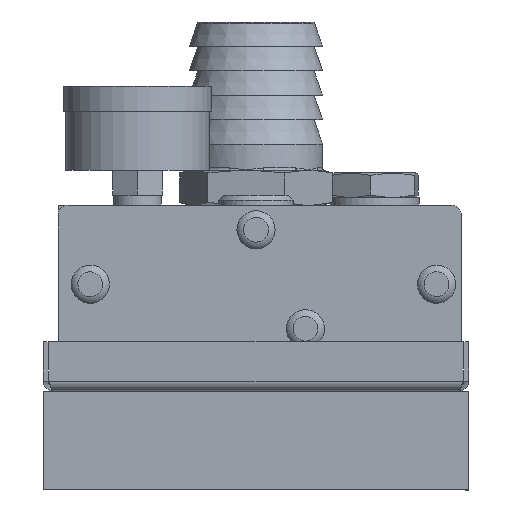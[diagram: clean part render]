
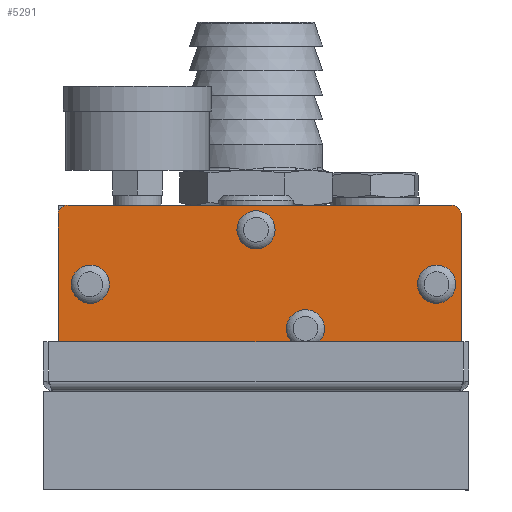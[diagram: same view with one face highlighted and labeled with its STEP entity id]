
A CAD part, front view. The second image highlights one B-rep face of the part: STEP entity #5291.
In plain terms, the highlighted planar face has unit normal (0, -1, 0).
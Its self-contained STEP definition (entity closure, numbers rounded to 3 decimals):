
#141 = CARTESIAN_POINT ( 'NONE',  ( 2.856, -278.65, 91.359 ) ) ;
#231 = EDGE_CURVE ( 'NONE', #6272, #6272, #9369, .T. ) ;
#254 = DIRECTION ( 'NONE',  ( 0., 0., -1. ) ) ;
#256 = EDGE_CURVE ( 'NONE', #4608, #2232, #9262, .T. ) ;
#259 = EDGE_CURVE ( 'NONE', #5994, #5994, #9313, .T. ) ;
#271 = EDGE_CURVE ( 'NONE', #7700, #4857, #9211, .T. ) ;
#329 = EDGE_CURVE ( 'NONE', #2232, #2457, #9144, .T. ) ;
#405 = EDGE_CURVE ( 'NONE', #2181, #6807, #8733, .T. ) ;
#554 = ORIENTED_EDGE ( 'NONE', *, *, #8478, .F. ) ;
#613 = CARTESIAN_POINT ( 'NONE',  ( -35.144, -278.65, 98.216 ) ) ;
#691 = DIRECTION ( 'NONE',  ( 0., 1., 0. ) ) ;
#706 = DIRECTION ( 'NONE',  ( -1., 0., 0. ) ) ;
#905 = CARTESIAN_POINT ( 'NONE',  ( 44.356, -278.65, 98.216 ) ) ;
#942 = CARTESIAN_POINT ( 'NONE',  ( 42.356, -278.65, 70.216 ) ) ;
#1057 = AXIS2_PLACEMENT_3D ( 'NONE', #7506, #7531, #4406 ) ;
#1059 = AXIS2_PLACEMENT_3D ( 'NONE', #7998, #7988, #7990 ) ;
#1097 = ORIENTED_EDGE ( 'NONE', *, *, #8384, .F. ) ;
#1454 = AXIS2_PLACEMENT_3D ( 'NONE', #9088, #9105, #9125 ) ;
#1552 = AXIS2_PLACEMENT_3D ( 'NONE', #8736, #8779, #8661 ) ;
#1574 = CIRCLE ( 'NONE', #2279, 2. ) ;
#1620 = AXIS2_PLACEMENT_3D ( 'NONE', #5805, #5595, #3160 ) ;
#1819 = ORIENTED_EDGE ( 'NONE', *, *, #7882, .F. ) ;
#1972 = AXIS2_PLACEMENT_3D ( 'NONE', #2653, #2659, #2670 ) ;
#2166 = CARTESIAN_POINT ( 'NONE',  ( -37.144, -278.65, 72.216 ) ) ;
#2175 = CARTESIAN_POINT ( 'NONE',  ( -30.644, -278.65, 80.359 ) ) ;
#2181 = VERTEX_POINT ( 'NONE', #2166 ) ;
#2232 = VERTEX_POINT ( 'NONE', #6602 ) ;
#2242 = DIRECTION ( 'NONE',  ( 0., 0., -1. ) ) ;
#2279 = AXIS2_PLACEMENT_3D ( 'NONE', #613, #691, #706 ) ;
#2454 = DIRECTION ( 'NONE',  ( 0., -1., 0. ) ) ;
#2457 = VERTEX_POINT ( 'NONE', #905 ) ;
#2499 = CARTESIAN_POINT ( 'NONE',  ( -30.644, -278.65, 84.216 ) ) ;
#2653 = CARTESIAN_POINT ( 'NONE',  ( 2.856, -278.65, 95.216 ) ) ;
#2659 = DIRECTION ( 'NONE',  ( 0., -1., 0. ) ) ;
#2670 = DIRECTION ( 'NONE',  ( 0., 0., -1. ) ) ;
#2763 = ORIENTED_EDGE ( 'NONE', *, *, #8960, .F. ) ;
#2909 = CIRCLE ( 'NONE', #1620, 2. ) ;
#3029 = EDGE_LOOP ( 'NONE', ( #7032 ) ) ;
#3155 = ORIENTED_EDGE ( 'NONE', *, *, #8291, .F. ) ;
#3160 = DIRECTION ( 'NONE',  ( -1., 0., 0. ) ) ;
#3388 = CARTESIAN_POINT ( 'NONE',  ( 44.356, -278.65, 72.216 ) ) ;
#3940 = EDGE_LOOP ( 'NONE', ( #4719 ) ) ;
#3994 = CARTESIAN_POINT ( 'NONE',  ( 44.356, -278.65, 72.216 ) ) ;
#4032 = VERTEX_POINT ( 'NONE', #8211 ) ;
#4406 = DIRECTION ( 'NONE',  ( 1., 0., 0. ) ) ;
#4529 = CARTESIAN_POINT ( 'NONE',  ( -35.144, -278.65, 100.216 ) ) ;
#4608 = VERTEX_POINT ( 'NONE', #4529 ) ;
#4719 = ORIENTED_EDGE ( 'NONE', *, *, #259, .F. ) ;
#4857 = VERTEX_POINT ( 'NONE', #942 ) ;
#4932 = CARTESIAN_POINT ( 'NONE',  ( 12.856, -278.65, 71.359 ) ) ;
#5033 = ORIENTED_EDGE ( 'NONE', *, *, #329, .F. ) ;
#5089 = FACE_OUTER_BOUND ( 'NONE', #9251, .T. ) ;
#5196 = ORIENTED_EDGE ( 'NONE', *, *, #231, .F. ) ;
#5290 = ORIENTED_EDGE ( 'NONE', *, *, #405, .F. ) ;
#5291 = ADVANCED_FACE ( 'NONE', ( #5931, #5905, #5943, #5967, #5089 ), #6832, .T. ) ;
#5346 = CARTESIAN_POINT ( 'NONE',  ( 39.356, -278.65, 80.359 ) ) ;
#5526 = VERTEX_POINT ( 'NONE', #141 ) ;
#5595 = DIRECTION ( 'NONE',  ( 0., 1., 0. ) ) ;
#5805 = CARTESIAN_POINT ( 'NONE',  ( -35.144, -278.65, 72.216 ) ) ;
#5823 = DIRECTION ( 'NONE',  ( 0., 0., 1. ) ) ;
#5831 = VECTOR ( 'NONE', #9069, 1000. ) ;
#5877 = CARTESIAN_POINT ( 'NONE',  ( -37.144, -278.65, 72.216 ) ) ;
#5905 = FACE_BOUND ( 'NONE', #3029, .T. ) ;
#5931 = FACE_BOUND ( 'NONE', #3940, .T. ) ;
#5943 = FACE_BOUND ( 'NONE', #8891, .T. ) ;
#5967 = FACE_BOUND ( 'NONE', #9241, .T. ) ;
#5994 = VERTEX_POINT ( 'NONE', #4932 ) ;
#6173 = AXIS2_PLACEMENT_3D ( 'NONE', #6596, #6881, #6566 ) ;
#6272 = VERTEX_POINT ( 'NONE', #5346 ) ;
#6566 = DIRECTION ( 'NONE',  ( -1., 0., 0. ) ) ;
#6596 = CARTESIAN_POINT ( 'NONE',  ( -35.144, -278.65, 72.216 ) ) ;
#6602 = CARTESIAN_POINT ( 'NONE',  ( 42.356, -278.65, 100.216 ) ) ;
#6807 = VERTEX_POINT ( 'NONE', #7086 ) ;
#6832 = PLANE ( 'NONE',  #6173 ) ;
#6881 = DIRECTION ( 'NONE',  ( 0., -1., 0. ) ) ;
#6942 = ORIENTED_EDGE ( 'NONE', *, *, #271, .F. ) ;
#7032 = ORIENTED_EDGE ( 'NONE', *, *, #8856, .F. ) ;
#7086 = CARTESIAN_POINT ( 'NONE',  ( -37.144, -278.65, 98.216 ) ) ;
#7271 = CIRCLE ( 'NONE', #8723, 3.857 ) ;
#7272 = LINE ( 'NONE', #3994, #7295 ) ;
#7295 = VECTOR ( 'NONE', #254, 1000. ) ;
#7337 = VERTEX_POINT ( 'NONE', #2175 ) ;
#7506 = CARTESIAN_POINT ( 'NONE',  ( 42.356, -278.65, 98.216 ) ) ;
#7531 = DIRECTION ( 'NONE',  ( 0., 1., 0. ) ) ;
#7700 = VERTEX_POINT ( 'NONE', #3388 ) ;
#7882 = EDGE_CURVE ( 'NONE', #2457, #7700, #7272, .T. ) ;
#7988 = DIRECTION ( 'NONE',  ( 0., 1., 0. ) ) ;
#7990 = DIRECTION ( 'NONE',  ( 1., 0., 0. ) ) ;
#7998 = CARTESIAN_POINT ( 'NONE',  ( 42.356, -278.65, 72.216 ) ) ;
#8211 = CARTESIAN_POINT ( 'NONE',  ( -35.144, -278.65, 70.216 ) ) ;
#8291 = EDGE_CURVE ( 'NONE', #7337, #7337, #7271, .T. ) ;
#8384 = EDGE_CURVE ( 'NONE', #4857, #4032, #9441, .T. ) ;
#8478 = EDGE_CURVE ( 'NONE', #4032, #2181, #2909, .T. ) ;
#8661 = DIRECTION ( 'NONE',  ( 0., 0., -1. ) ) ;
#8723 = AXIS2_PLACEMENT_3D ( 'NONE', #2499, #2454, #2242 ) ;
#8733 = LINE ( 'NONE', #5877, #8927 ) ;
#8736 = CARTESIAN_POINT ( 'NONE',  ( 39.356, -278.65, 84.216 ) ) ;
#8779 = DIRECTION ( 'NONE',  ( 0., -1., 0. ) ) ;
#8856 = EDGE_CURVE ( 'NONE', #5526, #5526, #9116, .T. ) ;
#8891 = EDGE_LOOP ( 'NONE', ( #3155 ) ) ;
#8927 = VECTOR ( 'NONE', #5823, 1000. ) ;
#8960 = EDGE_CURVE ( 'NONE', #6807, #4608, #1574, .T. ) ;
#8981 = CARTESIAN_POINT ( 'NONE',  ( -35.144, -278.65, 100.216 ) ) ;
#9011 = DIRECTION ( 'NONE',  ( 1., 0., 0. ) ) ;
#9033 = ORIENTED_EDGE ( 'NONE', *, *, #256, .F. ) ;
#9069 = DIRECTION ( 'NONE',  ( -1., 0., 0. ) ) ;
#9088 = CARTESIAN_POINT ( 'NONE',  ( 12.856, -278.65, 75.216 ) ) ;
#9105 = DIRECTION ( 'NONE',  ( 0., -1., 0. ) ) ;
#9116 = CIRCLE ( 'NONE', #1972, 3.857 ) ;
#9125 = DIRECTION ( 'NONE',  ( 0., 0., -1. ) ) ;
#9144 = CIRCLE ( 'NONE', #1057, 2. ) ;
#9211 = CIRCLE ( 'NONE', #1059, 2. ) ;
#9241 = EDGE_LOOP ( 'NONE', ( #5196 ) ) ;
#9242 = VECTOR ( 'NONE', #9011, 1000. ) ;
#9251 = EDGE_LOOP ( 'NONE', ( #554, #1097, #6942, #1819, #5033, #9033, #2763, #5290 ) ) ;
#9262 = LINE ( 'NONE', #8981, #9242 ) ;
#9272 = CARTESIAN_POINT ( 'NONE',  ( -35.144, -278.65, 70.216 ) ) ;
#9313 = CIRCLE ( 'NONE', #1454, 3.857 ) ;
#9369 = CIRCLE ( 'NONE', #1552, 3.857 ) ;
#9441 = LINE ( 'NONE', #9272, #5831 ) ;
